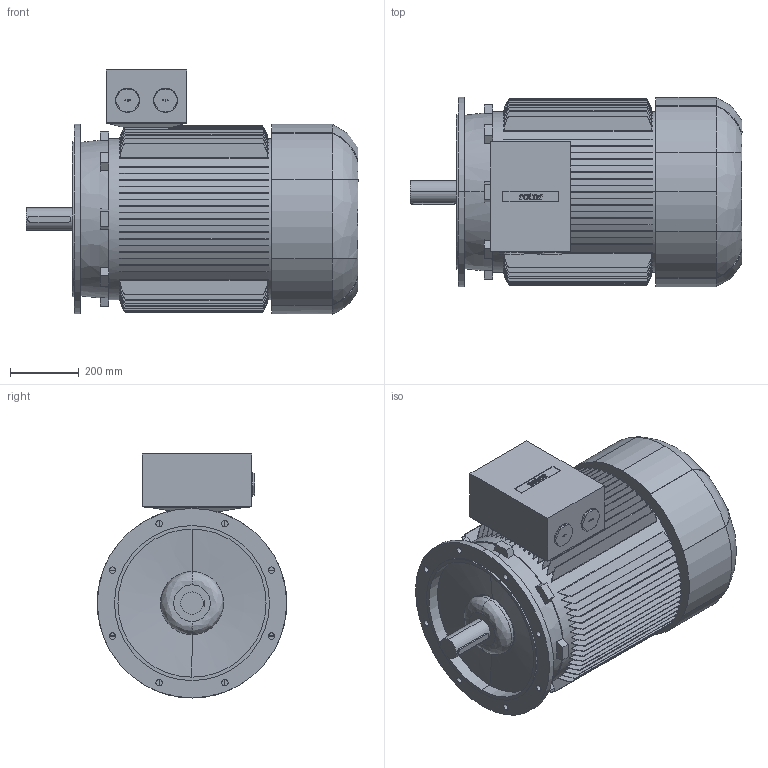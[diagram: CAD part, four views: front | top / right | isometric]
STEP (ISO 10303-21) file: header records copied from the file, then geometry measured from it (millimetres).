
FILE_DESCRIPTION (( 'STEP AP214' ), '1' );
FILE_NAME ('6RN280S02E30 IM3001.STEP', '2014-09-16T10:14:26', ( 'rbc_ict' ), ( 'REGAL' ), 'SwSTEP 2.0', 'SolidWorks 2012', '' );
FILE_SCHEMA (( 'AUTOMOTIVE_DESIGN' ));
Length unit declared in the file: millimetre
Products named in the file (1): 6RN280S02E30 IM3001
Bounding box: 964 x 550 x 708.5 mm (x, y, z)
Volume: 165999905.4 mm3; surface area: 4458772.9 mm2
Topology: 1 solids, 1 shells, 675 faces, 1750 edges, 1157 vertices
Faces by surface type: plane 340, bspline 203, cylinder 126, cone 6
Entity records: 28802 total; most frequent: CARTESIAN_POINT 13772, ORIENTED_EDGE 3500, DIRECTION 2461, EDGE_CURVE 1750, VERTEX_POINT 1157, LINE 833, VECTOR 833, AXIS2_PLACEMENT_3D 814
